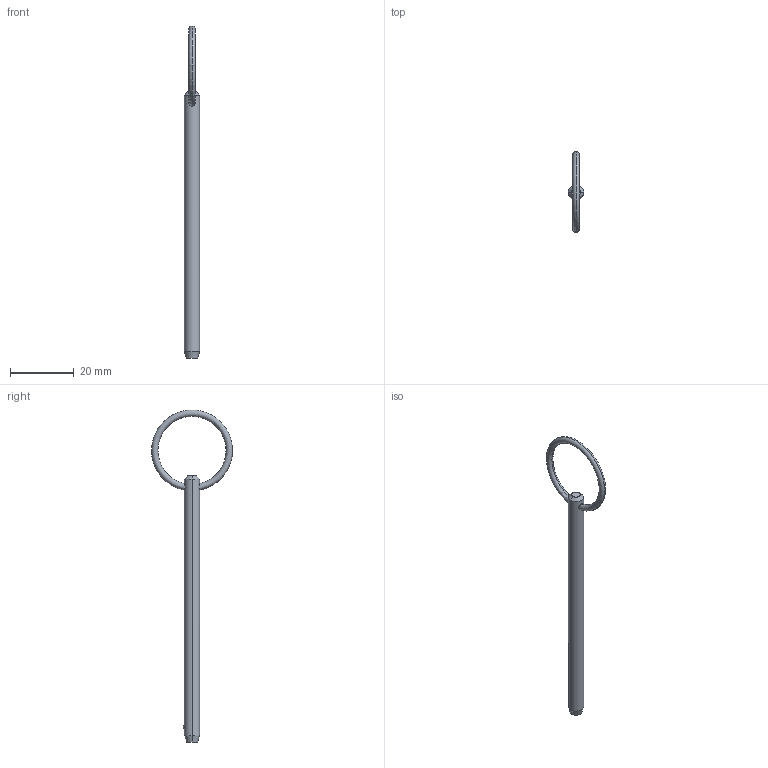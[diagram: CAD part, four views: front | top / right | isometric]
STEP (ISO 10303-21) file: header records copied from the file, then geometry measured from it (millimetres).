
FILE_DESCRIPTION (( 'STEP AP203' ), '1' );
FILE_NAME ('P1250.018-290.step', '2019-07-29T19:35:13', ( '' ), ( '' ), 'SwSTEP 2.0', 'SolidWorks 2017', '' );
FILE_SCHEMA (( 'CONFIG_CONTROL_DESIGN' ));
Length unit declared in the file: millimetre
Products named in the file (1): P1250.018-290
Bounding box: 4.76 x 25.4 x 104.18 mm (x, y, z)
Volume: 1688.8 mm3; surface area: 1692.2 mm2
Topology: 1 solids, 1 shells, 12 faces, 28 edges, 17 vertices
Faces by surface type: cone 4, torus 2, sphere 2, cylinder 2, plane 2
Entity records: 471 total; most frequent: CARTESIAN_POINT 138, DIRECTION 56, ORIENTED_EDGE 48, AXIS2_PLACEMENT_3D 25, EDGE_CURVE 24, VERTEX_POINT 15, EDGE_LOOP 15, FACE_OUTER_BOUND 12
